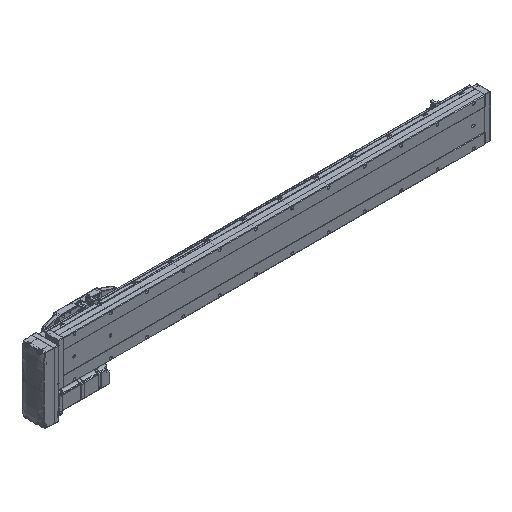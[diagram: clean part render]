
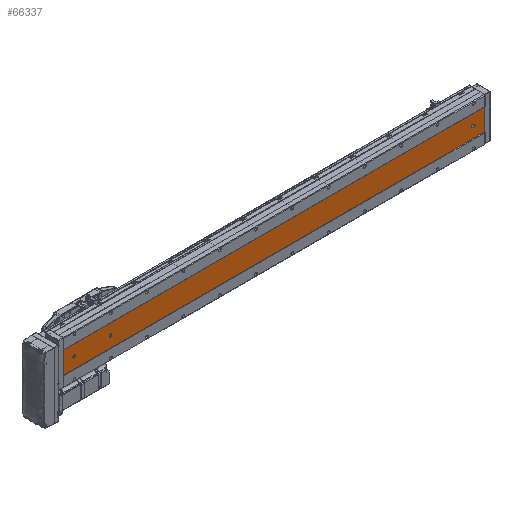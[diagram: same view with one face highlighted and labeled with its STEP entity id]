
A CAD part, isometric view. The second image highlights one B-rep face of the part: STEP entity #66337.
In plain terms, the highlighted planar face has unit normal (0, -1, 0).
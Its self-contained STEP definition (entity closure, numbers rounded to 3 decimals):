
#194 = EDGE_CURVE ( 'NONE', #77439, #55269, #71099, .T. ) ;
#661 = DIRECTION ( 'NONE',  ( 0., 0., 1. ) ) ;
#1006 = ORIENTED_EDGE ( 'NONE', *, *, #71672, .T. ) ;
#2323 = EDGE_CURVE ( 'NONE', #77095, #42272, #26462, .T. ) ;
#2421 = CARTESIAN_POINT ( 'NONE',  ( -39.892, -52.848, 1027.5 ) ) ;
#3052 = DIRECTION ( 'NONE',  ( 0., 0., 1. ) ) ;
#7069 = ORIENTED_EDGE ( 'NONE', *, *, #56711, .T. ) ;
#7964 = VERTEX_POINT ( 'NONE', #30505 ) ;
#8626 = AXIS2_PLACEMENT_3D ( 'NONE', #14544, #80095, #661 ) ;
#9620 = CIRCLE ( 'NONE', #86329, 3.5 ) ;
#10407 = EDGE_CURVE ( 'NONE', #41638, #29557, #33767, .T. ) ;
#11371 = CARTESIAN_POINT ( 'NONE',  ( -36.392, -52.848, 30. ) ) ;
#11546 = ORIENTED_EDGE ( 'NONE', *, *, #19872, .T. ) ;
#12649 = VERTEX_POINT ( 'NONE', #40115 ) ;
#12771 = FACE_BOUND ( 'NONE', #54039, .T. ) ;
#13203 = DIRECTION ( 'NONE',  ( 0., 1., 0. ) ) ;
#14529 = ORIENTED_EDGE ( 'NONE', *, *, #70536, .T. ) ;
#14544 = CARTESIAN_POINT ( 'NONE',  ( -39.892, -52.848, 1031. ) ) ;
#14892 = FACE_OUTER_BOUND ( 'NONE', #39406, .T. ) ;
#15920 = FACE_BOUND ( 'NONE', #22073, .T. ) ;
#17997 = VECTOR ( 'NONE', #52270, 1000. ) ;
#18783 = CARTESIAN_POINT ( 'NONE',  ( -69.892, -52.848, 1161. ) ) ;
#19644 = CIRCLE ( 'NONE', #31491, 3.5 ) ;
#19734 = LINE ( 'NONE', #21746, #85267 ) ;
#19872 = EDGE_CURVE ( 'NONE', #48695, #7964, #9620, .T. ) ;
#20205 = CARTESIAN_POINT ( 'NONE',  ( -43.392, -52.848, 1161. ) ) ;
#20285 = CARTESIAN_POINT ( 'NONE',  ( -39.892, -52.848, 1031. ) ) ;
#21746 = CARTESIAN_POINT ( 'NONE',  ( -69.892, -52.848, 1161. ) ) ;
#22073 = EDGE_LOOP ( 'NONE', ( #26245, #76602 ) ) ;
#22362 = CARTESIAN_POINT ( 'NONE',  ( -39.892, -52.848, 30. ) ) ;
#22670 = DIRECTION ( 'NONE',  ( 0., 1., 0. ) ) ;
#22903 = VERTEX_POINT ( 'NONE', #63656 ) ;
#23545 = ORIENTED_EDGE ( 'NONE', *, *, #50224, .T. ) ;
#23948 = DIRECTION ( 'NONE',  ( 0., 1., 0. ) ) ;
#24226 = VECTOR ( 'NONE', #60029, 1000. ) ;
#24402 = CARTESIAN_POINT ( 'NONE',  ( -39.892, -52.848, 1131. ) ) ;
#25173 = AXIS2_PLACEMENT_3D ( 'NONE', #18783, #65671, #59776 ) ;
#25565 = ORIENTED_EDGE ( 'NONE', *, *, #10407, .T. ) ;
#25858 = PLANE ( 'NONE',  #25173 ) ;
#26245 = ORIENTED_EDGE ( 'NONE', *, *, #61327, .T. ) ;
#26462 = CIRCLE ( 'NONE', #29972, 3.5 ) ;
#27154 = CIRCLE ( 'NONE', #67411, 3.5 ) ;
#27399 = VECTOR ( 'NONE', #80305, 1000. ) ;
#28006 = CARTESIAN_POINT ( 'NONE',  ( -43.392, -52.848, 30. ) ) ;
#28217 = ORIENTED_EDGE ( 'NONE', *, *, #62773, .T. ) ;
#28507 = DIRECTION ( 'NONE',  ( 1., 0., 0. ) ) ;
#28962 = LINE ( 'NONE', #20205, #80769 ) ;
#29259 = EDGE_CURVE ( 'NONE', #12649, #29557, #33648, .T. ) ;
#29305 = LINE ( 'NONE', #48333, #36676 ) ;
#29557 = VERTEX_POINT ( 'NONE', #61500 ) ;
#29566 = CARTESIAN_POINT ( 'NONE',  ( -39.892, -52.848, 30. ) ) ;
#29897 = ORIENTED_EDGE ( 'NONE', *, *, #29259, .F. ) ;
#29972 = AXIS2_PLACEMENT_3D ( 'NONE', #84562, #43735, #3052 ) ;
#30505 = CARTESIAN_POINT ( 'NONE',  ( -36.392, -52.848, 32. ) ) ;
#30732 = CARTESIAN_POINT ( 'NONE',  ( -69.892, -52.848, 0. ) ) ;
#30984 = CARTESIAN_POINT ( 'NONE',  ( -69.892, -52.848, 0. ) ) ;
#31491 = AXIS2_PLACEMENT_3D ( 'NONE', #24402, #39757, #59857 ) ;
#31535 = AXIS2_PLACEMENT_3D ( 'NONE', #29566, #35795, #69149 ) ;
#33648 = LINE ( 'NONE', #80150, #24226 ) ;
#33767 = LINE ( 'NONE', #30984, #17997 ) ;
#33815 = DIRECTION ( 'NONE',  ( 0., 0., 1. ) ) ;
#35795 = DIRECTION ( 'NONE',  ( 0., 1., 0. ) ) ;
#35862 = CIRCLE ( 'NONE', #8626, 3.5 ) ;
#35911 = DIRECTION ( 'NONE',  ( 0., 0., 1. ) ) ;
#36676 = VECTOR ( 'NONE', #69569, 1000. ) ;
#38350 = CARTESIAN_POINT ( 'NONE',  ( -43.392, -52.848, 32. ) ) ;
#39406 = EDGE_LOOP ( 'NONE', ( #25565, #29897, #81727, #14529 ) ) ;
#39757 = DIRECTION ( 'NONE',  ( 0., 1., 0. ) ) ;
#39945 = DIRECTION ( 'NONE',  ( 0., 0., 1. ) ) ;
#40115 = CARTESIAN_POINT ( 'NONE',  ( -9.892, -52.848, 1161. ) ) ;
#41638 = VERTEX_POINT ( 'NONE', #30732 ) ;
#42272 = VERTEX_POINT ( 'NONE', #66606 ) ;
#42858 = VERTEX_POINT ( 'NONE', #11371 ) ;
#43735 = DIRECTION ( 'NONE',  ( 0., 1., 0. ) ) ;
#47554 = FACE_BOUND ( 'NONE', #81664, .T. ) ;
#48333 = CARTESIAN_POINT ( 'NONE',  ( -36.392, -52.848, 1161. ) ) ;
#48695 = VERTEX_POINT ( 'NONE', #38350 ) ;
#49612 = AXIS2_PLACEMENT_3D ( 'NONE', #22362, #22670, #35911 ) ;
#50179 = DIRECTION ( 'NONE',  ( 0., 0., 1. ) ) ;
#50224 = EDGE_CURVE ( 'NONE', #55269, #48695, #28962, .T. ) ;
#50493 = VERTEX_POINT ( 'NONE', #2421 ) ;
#52270 = DIRECTION ( 'NONE',  ( 1., 0., 0. ) ) ;
#52624 = CARTESIAN_POINT ( 'NONE',  ( -39.892, -52.848, 26.5 ) ) ;
#53124 = CARTESIAN_POINT ( 'NONE',  ( -69.892, -52.848, 1161. ) ) ;
#54039 = EDGE_LOOP ( 'NONE', ( #83278, #1006 ) ) ;
#55269 = VERTEX_POINT ( 'NONE', #28006 ) ;
#56711 = EDGE_CURVE ( 'NONE', #7964, #42858, #29305, .T. ) ;
#58102 = CARTESIAN_POINT ( 'NONE',  ( -39.892, -52.848, 32. ) ) ;
#59776 = DIRECTION ( 'NONE',  ( 0., 0., 1. ) ) ;
#59857 = DIRECTION ( 'NONE',  ( 0., 0., 1. ) ) ;
#60029 = DIRECTION ( 'NONE',  ( 0., 0., -1. ) ) ;
#61080 = EDGE_CURVE ( 'NONE', #22903, #12649, #19734, .T. ) ;
#61327 = EDGE_CURVE ( 'NONE', #42272, #77095, #19644, .T. ) ;
#61500 = CARTESIAN_POINT ( 'NONE',  ( -9.892, -52.848, 0. ) ) ;
#62773 = EDGE_CURVE ( 'NONE', #42858, #77439, #71234, .T. ) ;
#63656 = CARTESIAN_POINT ( 'NONE',  ( -69.892, -52.848, 1161. ) ) ;
#65671 = DIRECTION ( 'NONE',  ( 0., 1., 0. ) ) ;
#66337 = ADVANCED_FACE ( 'NONE', ( #47554, #12771, #15920, #14892 ), #25858, .F. ) ;
#66606 = CARTESIAN_POINT ( 'NONE',  ( -39.892, -52.848, 1127.5 ) ) ;
#67411 = AXIS2_PLACEMENT_3D ( 'NONE', #20285, #13203, #33815 ) ;
#68011 = CARTESIAN_POINT ( 'NONE',  ( -39.892, -52.848, 1134.5 ) ) ;
#68565 = LINE ( 'NONE', #53124, #27399 ) ;
#69149 = DIRECTION ( 'NONE',  ( 0., 0., 1. ) ) ;
#69184 = CARTESIAN_POINT ( 'NONE',  ( -39.892, -52.848, 1034.5 ) ) ;
#69569 = DIRECTION ( 'NONE',  ( 0., 0., -1. ) ) ;
#70536 = EDGE_CURVE ( 'NONE', #22903, #41638, #68565, .T. ) ;
#71099 = CIRCLE ( 'NONE', #31535, 3.5 ) ;
#71234 = CIRCLE ( 'NONE', #49612, 3.5 ) ;
#71672 = EDGE_CURVE ( 'NONE', #83277, #50493, #27154, .T. ) ;
#76602 = ORIENTED_EDGE ( 'NONE', *, *, #2323, .T. ) ;
#77095 = VERTEX_POINT ( 'NONE', #68011 ) ;
#77439 = VERTEX_POINT ( 'NONE', #52624 ) ;
#80095 = DIRECTION ( 'NONE',  ( 0., 1., 0. ) ) ;
#80150 = CARTESIAN_POINT ( 'NONE',  ( -9.892, -52.848, 1161. ) ) ;
#80305 = DIRECTION ( 'NONE',  ( 0., 0., -1. ) ) ;
#80523 = EDGE_CURVE ( 'NONE', #50493, #83277, #35862, .T. ) ;
#80769 = VECTOR ( 'NONE', #39945, 1000. ) ;
#81664 = EDGE_LOOP ( 'NONE', ( #7069, #28217, #85383, #23545, #11546 ) ) ;
#81727 = ORIENTED_EDGE ( 'NONE', *, *, #61080, .F. ) ;
#83277 = VERTEX_POINT ( 'NONE', #69184 ) ;
#83278 = ORIENTED_EDGE ( 'NONE', *, *, #80523, .T. ) ;
#84562 = CARTESIAN_POINT ( 'NONE',  ( -39.892, -52.848, 1131. ) ) ;
#85267 = VECTOR ( 'NONE', #28507, 1000. ) ;
#85383 = ORIENTED_EDGE ( 'NONE', *, *, #194, .T. ) ;
#86329 = AXIS2_PLACEMENT_3D ( 'NONE', #58102, #23948, #50179 ) ;
